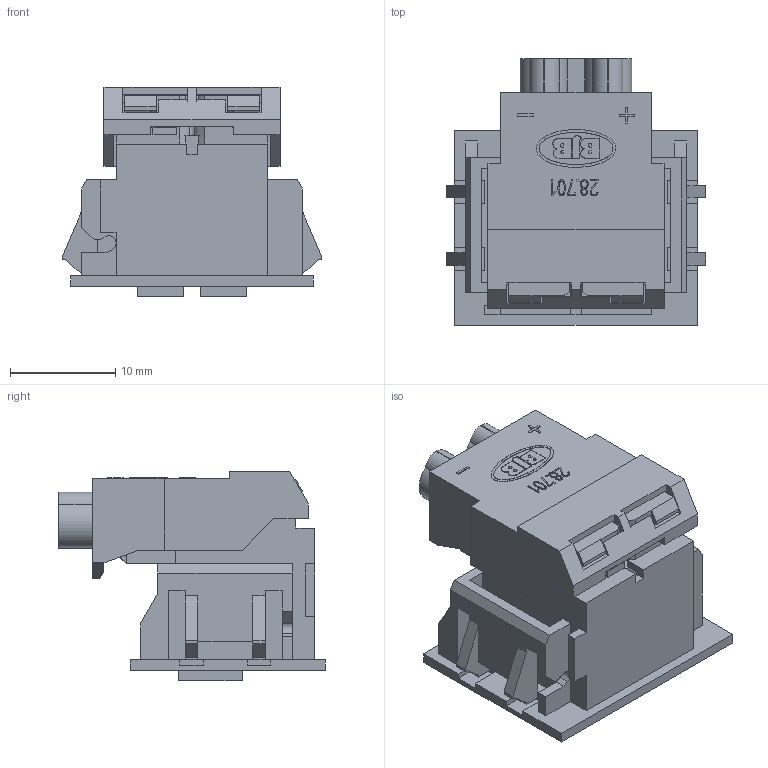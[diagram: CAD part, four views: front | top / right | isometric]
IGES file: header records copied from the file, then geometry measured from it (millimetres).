
Start section: C
Global section: file name: 01V-S2C-01.igs; native system: By Siemens PLM Incorporated; preprocessor: XPlus GENERIC/IGES 23.0.61; author: Author; organization: Title; date: 20240607.145843; units: millimetre
Bounding box: 24.6 x 25.3 x 19.9 mm (x, y, z)
Volume: 3413.8 mm3; surface area: 6559.4 mm2
Topology: 2 solids, 2 shells, 546 faces, 1562 edges, 1034 vertices
Faces by surface type: bspline 546
